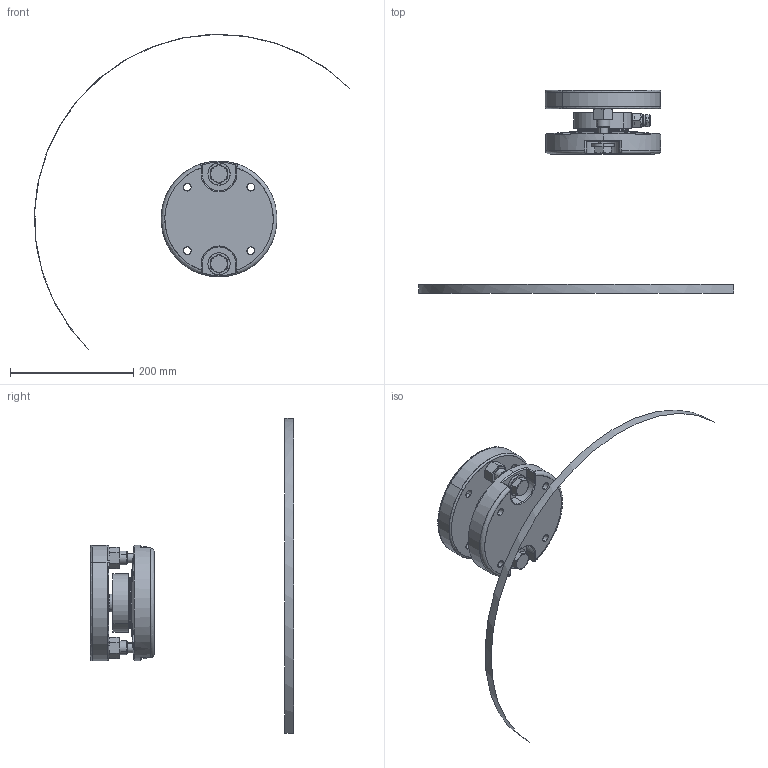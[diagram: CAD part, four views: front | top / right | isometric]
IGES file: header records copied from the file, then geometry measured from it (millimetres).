
Start section: SolidWorks IGES file using analytic representation for surfaces
Global section: file name: C:\0_Work\SolidWorks\HI HPLP Load Points\HI HPLP Load Point_22KLB\Load Point_HI HPLP-XX-22KLB.IGS; native system: SolidWorks 2013; preprocessor: SolidWorks 2013; author: vach01; date: 130927.094334; units: millimetre
Bounding box: 512.07 x 330 x 511.77 mm (x, y, z)
Surface area: 273755.8 mm2 (no closed solid volume)
Topology: 0 solids, 0 shells, 407 faces, 8409 edges, 8408 vertices
Faces by surface type: revolution 231, bspline 176
